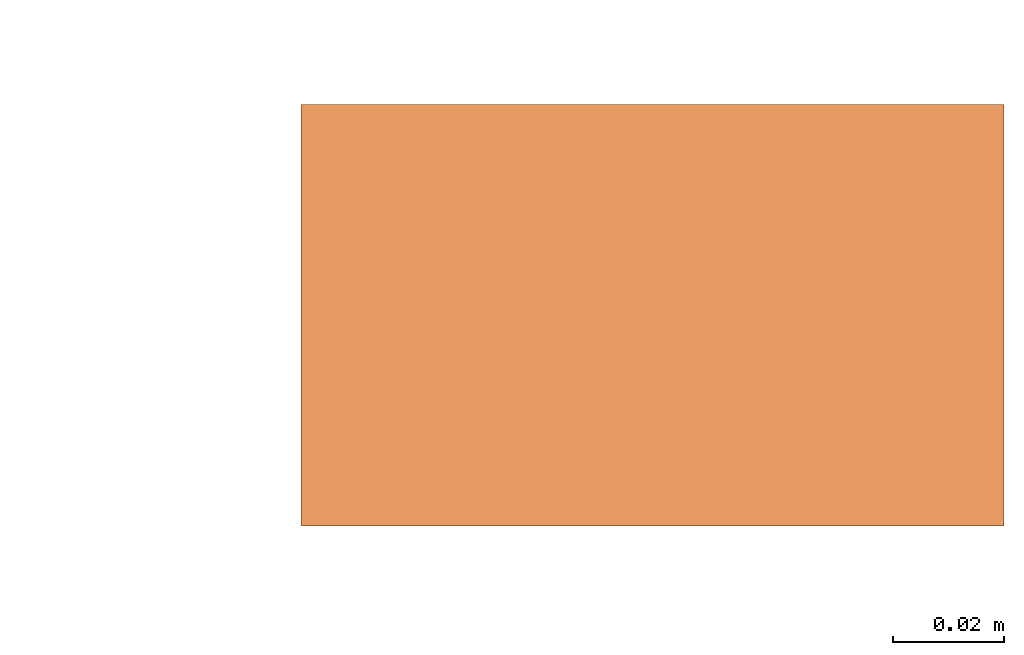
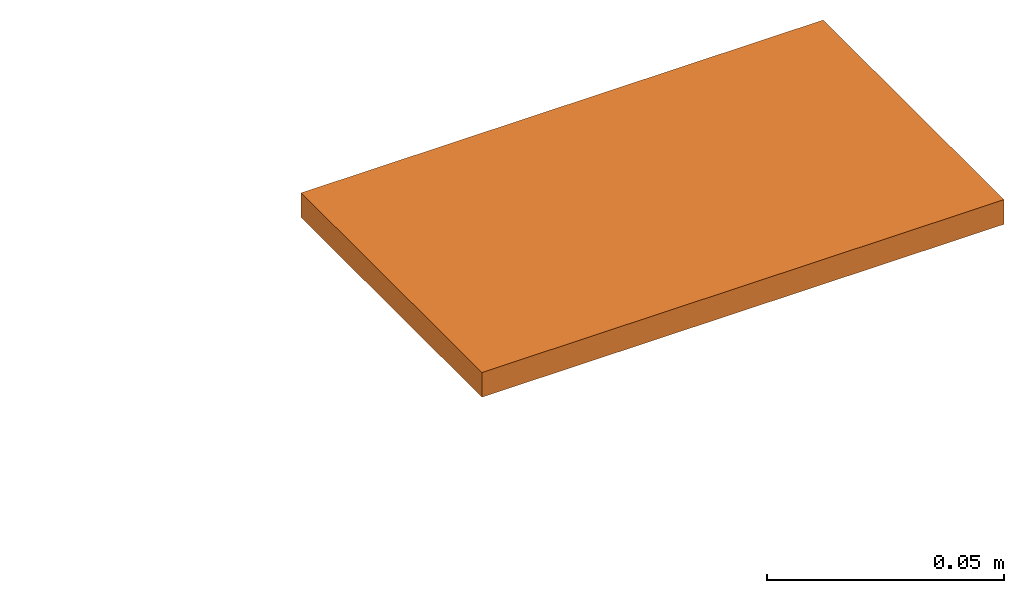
# One storey, part 24 of 24: 1 proxy.
"""IFC2X3 building model written with IfcOpenShell, lengths in inches."""

from ifc_helpers import new_model, entity, si_unit, converted_unit, derived_unit, money_unit, direction, frame, origin_with_axes, place, context, subcontext, project, spatial, faceted_brep, material, type_object, element, save


model = new_model("IFC2X3")

# Units and contexts
model_context = context("Model", 3, precision=0.000393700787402, world=origin_with_axes(), true_north=direction((0.0, 1.0)))
body_context = subcontext(model_context, "Body", "Model", "MODEL_VIEW")
ifc_project = project(units=[converted_unit("LENGTHUNIT", "INCH", entity("IfcPositiveLengthMeasure", 0.0254), si_unit("LENGTHUNIT", "METRE"), dimensions=[1, 0, 0, 0, 0, 0, 0]), converted_unit("AREAUNIT", "SQUARE_FOOT", entity("IfcPositiveLengthMeasure", 0.09290304), si_unit("AREAUNIT", "SQUARE_METRE"), dimensions=[2, 0, 0, 0, 0, 0, 0]), si_unit("PLANEANGLEUNIT", "RADIAN"), si_unit("SOLIDANGLEUNIT", "STERADIAN"), money_unit("USD"), converted_unit("TIMEUNIT", "Year", entity("IfcTimeMeasure", 31556926.0), si_unit("TIMEUNIT", "SECOND"), dimensions=[0, 0, 1, 0, 0, 0, 0]), si_unit("MASSUNIT", "GRAM", prefix="KILO"), si_unit("THERMODYNAMICTEMPERATUREUNIT", "DEGREE_CELSIUS"), si_unit("LUMINOUSINTENSITYUNIT", "LUMEN"), si_unit("ENERGYUNIT", "JOULE", prefix="MEGA"), derived_unit("THERMALCONDUCTANCEUNIT", [(si_unit("POWERUNIT", "WATT"), 1), (si_unit("LENGTHUNIT", "METRE"), -1), (si_unit("THERMODYNAMICTEMPERATUREUNIT", "KELVIN"), -1)]), derived_unit("SPECIFICHEATCAPACITYUNIT", [(si_unit("ENERGYUNIT", "JOULE"), 1), (si_unit("MASSUNIT", "GRAM", prefix="KILO"), -1), (si_unit("THERMODYNAMICTEMPERATUREUNIT", "KELVIN"), -1)]), derived_unit("MASSDENSITYUNIT", [(si_unit("MASSUNIT", "GRAM", prefix="KILO"), 1), (si_unit("VOLUMEUNIT", "CUBIC_METRE"), -1)])], contexts=[model_context])

# Site, building, storey
site_placement = place(None, origin_with_axes())
site = spatial("IfcSite", under=ifc_project, at=site_placement, Name="Site", CompositionType="ELEMENT")
building_placement = place(site_placement, origin_with_axes())
building = spatial("IfcBuilding", under=site, at=building_placement, Name="Building", CompositionType="ELEMENT")
storey_placement = place(building_placement, origin_with_axes())
storey = spatial("IfcBuildingStorey", under=building, at=storey_placement, Name="First Floor", CompositionType="ELEMENT", Elevation=0.0)

# Proxy
ifc_material = material(Name="Generic - Structural")
building_element_proxy_type = type_object("IfcBuildingElementProxyType", Name="Generic - Structural", PredefinedType="NOTDEFINED")
proxy_placement = place(storey_placement, frame((2546.17035142, 442.50443707, 100.75), z_axis=(0.0, 0.0, 1.0), x_axis=(1.0, 0.0, 0.0)))
element("IfcBuildingElementProxy", 1, at=proxy_placement, inside=storey, type_object=building_element_proxy_type, material=ifc_material, Name="MORPH-014", context=body_context, shape_type="Brep", body=[
    faceted_brep([(-1200.0, -3.0, 0.0), (-1200.0, 0.0, 0.0), (-1195.0, 0.0, 0.0), (-1195.0, -3.0, 0.0), (-1200.0, -3.0, 0.25), (-1200.0, 0.0, 0.25), (-1195.0, 0.0, 0.25), (-1195.0, -3.0, 0.25)], [[[0, 1, 2, 3]], [[1, 0, 4, 5]], [[2, 1, 5, 6]], [[3, 2, 6, 7]], [[0, 3, 7, 4]], [[5, 4, 7, 6]]]),
])

save(model, "model.ifc")
